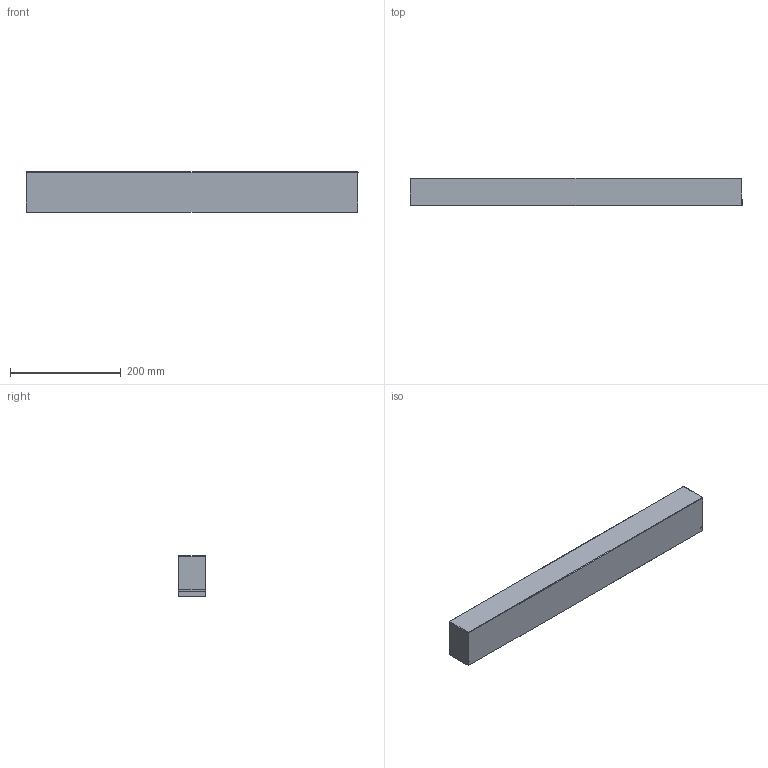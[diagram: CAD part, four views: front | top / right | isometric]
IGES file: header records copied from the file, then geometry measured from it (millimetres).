
Start section: SolidWorks IGES file using NURBS representation for surfaces
Global section: file name: Z:\Modele 3D_WWW\_KOLEKCJE_WWW\STRAIGHT\STRAIGHT-WALL-S-7568-7565-7562-7596\STRAIGHT-WALL-S-7568-7565-7562-7596.IGS; native system: SolidWorks 2021; preprocessor: SolidWorks 2021; author: gabriela.tworek; date: 211104.082338; units: millimetre
Bounding box: 600 x 50 x 73 mm (x, y, z)
Surface area: 310881.3 mm2 (no closed solid volume)
Topology: 0 solids, 0 shells, 36 faces, 196 edges, 192 vertices
Faces by surface type: bspline 36
